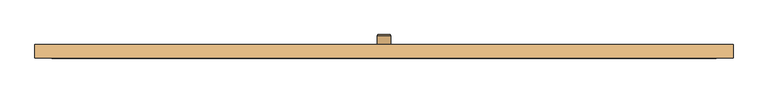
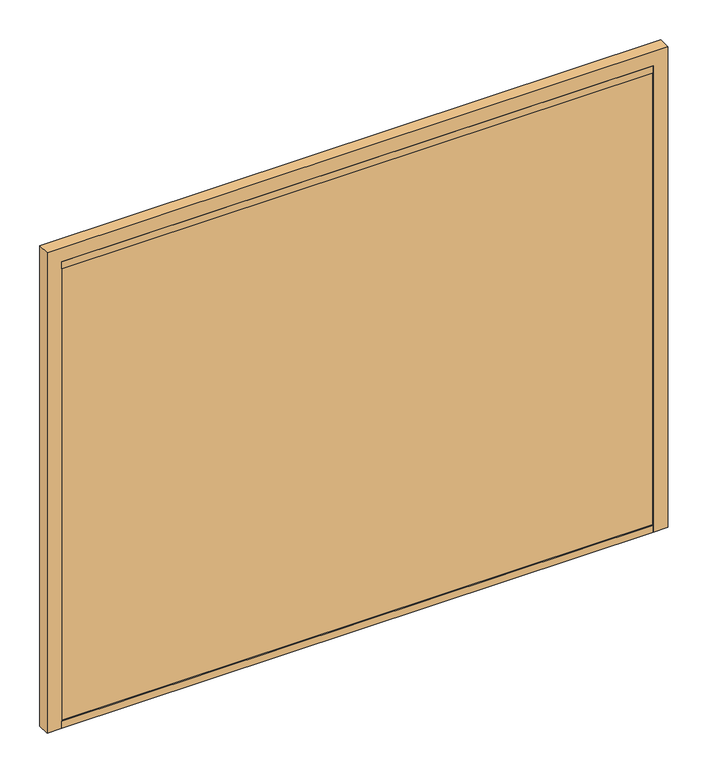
"""IFC4 building model written with IfcOpenShell, lengths in millimetres: door geometry, Garage basculante : Garage basculante."""

from ifc_helpers import new_model, si_unit, frame, origin, place, context, project, spatial, polyline, circle_curve, outline, extrude, faceted_brep, source, transform, mapped, element, save
from ifc_brep_helpers import plane_surface, cylinder_surface, revolved_surface, advanced_brep


def door_f3a96b27(model_context):
    return source(origin(), model_context, "Body", "SolidModel", [
        faceted_brep([(-1215.0, -503.5523258, 2000.0), (1185.0, -503.5523258, 2000.0), (1185.0, -453.5523258, 2000.0), (-1215.0, -453.5523258, 2000.0), (1185.0, -503.5523258, 0.0), (-1215.0, -503.5523258, 0.0), (-1215.0, -453.5523258, 0.0), (1185.0, -453.5523258, 0.0), (1117.5806452, -468.5523258, 1970.0), (1117.5806452, -468.5523258, 30.0), (1097.5806452, -468.5523258, 30.0), (1097.5806452, -468.5523258, 1970.0), (1097.5806452, -458.5523258, 30.0), (1097.5806452, -458.5523258, 1970.0), (1040.1612903, -458.5523258, 30.0), (1040.1612903, -458.5523258, 1970.0), (1040.1612903, -468.5523258, 30.0), (1040.1612903, -468.5523258, 1970.0), (1020.1612903, -468.5523258, 30.0), (1020.1612903, -468.5523258, 1970.0), (1020.1612903, -458.5523258, 30.0), (1020.1612903, -458.5523258, 1970.0), (962.7419355, -458.5523258, 30.0), (962.7419355, -458.5523258, 1970.0), (962.7419355, -468.5523258, 30.0), (962.7419355, -468.5523258, 1970.0), (942.7419355, -468.5523258, 30.0), (942.7419355, -468.5523258, 1970.0), (942.7419355, -458.5523258, 30.0), (942.7419355, -458.5523258, 1970.0), (885.3225806, -458.5523258, 30.0), (885.3225806, -458.5523258, 1970.0), (885.3225806, -468.5523258, 30.0), (885.3225806, -468.5523258, 1970.0), (865.3225806, -468.5523258, 30.0), (865.3225806, -468.5523258, 1970.0), (865.3225806, -458.5523258, 30.0), (865.3225806, -458.5523258, 1970.0), (807.9032258, -458.5523258, 30.0), (807.9032258, -458.5523258, 1970.0), (807.9032258, -468.5523258, 30.0), (807.9032258, -468.5523258, 1970.0), (787.9032258, -468.5523258, 30.0), (787.9032258, -468.5523258, 1970.0), (787.9032258, -458.5523258, 30.0), (787.9032258, -458.5523258, 1970.0), (730.483871, -458.5523258, 30.0), (730.483871, -458.5523258, 1970.0), (730.483871, -468.5523258, 30.0), (730.483871, -468.5523258, 1970.0), (710.483871, -468.5523258, 30.0), (710.483871, -468.5523258, 1970.0), (710.483871, -458.5523258, 30.0), (710.483871, -458.5523258, 1970.0), (653.0645161, -458.5523258, 30.0), (653.0645161, -458.5523258, 1970.0), (653.0645161, -468.5523258, 30.0), (653.0645161, -468.5523258, 1970.0), (633.0645161, -468.5523258, 30.0), (633.0645161, -468.5523258, 1970.0), (633.0645161, -458.5523258, 30.0), (633.0645161, -458.5523258, 1970.0), (575.6451613, -458.5523258, 30.0), (575.6451613, -458.5523258, 1970.0), (575.6451613, -468.5523258, 30.0), (575.6451613, -468.5523258, 1970.0), (555.6451613, -468.5523258, 30.0), (555.6451613, -468.5523258, 1970.0), (555.6451613, -458.5523258, 30.0), (555.6451613, -458.5523258, 1970.0), (498.2258065, -458.5523258, 30.0), (498.2258065, -458.5523258, 1970.0), (498.2258065, -468.5523258, 30.0), (498.2258065, -468.5523258, 1970.0), (478.2258065, -468.5523258, 30.0), (478.2258065, -468.5523258, 1970.0), (478.2258065, -458.5523258, 30.0), (478.2258065, -458.5523258, 1970.0), (420.8064516, -458.5523258, 30.0), (420.8064516, -458.5523258, 1970.0), (420.8064516, -468.5523258, 30.0), (420.8064516, -468.5523258, 1970.0), (400.8064516, -468.5523258, 30.0), (400.8064516, -468.5523258, 1970.0), (400.8064516, -458.5523258, 30.0), (400.8064516, -458.5523258, 1970.0), (343.3870968, -458.5523258, 30.0), (343.3870968, -458.5523258, 1970.0), (343.3870968, -468.5523258, 30.0), (343.3870968, -468.5523258, 1970.0), (323.3870968, -468.5523258, 30.0), (323.3870968, -468.5523258, 1970.0), (323.3870968, -458.5523258, 30.0), (323.3870968, -458.5523258, 1970.0), (265.9677419, -458.5523258, 30.0), (265.9677419, -458.5523258, 1970.0), (265.9677419, -468.5523258, 30.0), (265.9677419, -468.5523258, 1970.0), (245.9677419, -468.5523258, 30.0), (245.9677419, -468.5523258, 1970.0), (245.9677419, -458.5523258, 30.0), (245.9677419, -458.5523258, 1970.0), (188.5483871, -458.5523258, 30.0), (188.5483871, -458.5523258, 1970.0), (188.5483871, -468.5523258, 30.0), (188.5483871, -468.5523258, 1970.0), (168.5483871, -468.5523258, 30.0), (168.5483871, -468.5523258, 1970.0), (168.5483871, -458.5523258, 30.0), (168.5483871, -458.5523258, 1970.0), (111.1290323, -458.5523258, 30.0), (111.1290323, -458.5523258, 1970.0), (111.1290323, -468.5523258, 30.0), (111.1290323, -468.5523258, 1970.0), (91.1290323, -468.5523258, 30.0), (91.1290323, -468.5523258, 1970.0), (91.1290323, -458.5523258, 30.0), (91.1290323, -458.5523258, 1970.0), (33.7096774, -458.5523258, 30.0), (33.7096774, -458.5523258, 1970.0), (33.7096774, -468.5523258, 30.0), (33.7096774, -468.5523258, 1970.0), (13.7096774, -468.5523258, 30.0), (13.7096774, -468.5523258, 1970.0), (13.7096774, -458.5523258, 30.0), (13.7096774, -458.5523258, 1970.0), (-43.7096774, -458.5523258, 30.0), (-43.7096774, -458.5523258, 1970.0), (-43.7096774, -468.5523258, 30.0), (-43.7096774, -468.5523258, 1970.0), (-63.7096774, -468.5523258, 30.0), (-63.7096774, -468.5523258, 1970.0), (-63.7096774, -458.5523258, 30.0), (-63.7096774, -458.5523258, 1970.0), (-121.1290323, -458.5523258, 30.0), (-121.1290323, -458.5523258, 1970.0), (-121.1290323, -468.5523258, 30.0), (-121.1290323, -468.5523258, 1970.0), (-141.1290323, -468.5523258, 30.0), (-141.1290323, -468.5523258, 1970.0), (-141.1290323, -458.5523258, 30.0), (-141.1290323, -458.5523258, 1970.0), (-198.5483871, -458.5523258, 30.0), (-198.5483871, -458.5523258, 1970.0), (-198.5483871, -468.5523258, 30.0), (-198.5483871, -468.5523258, 1970.0), (-218.5483871, -468.5523258, 30.0), (-218.5483871, -468.5523258, 1970.0), (-218.5483871, -458.5523258, 30.0), (-218.5483871, -458.5523258, 1970.0), (-275.9677419, -458.5523258, 30.0), (-275.9677419, -458.5523258, 1970.0), (-275.9677419, -468.5523258, 30.0), (-275.9677419, -468.5523258, 1970.0), (-295.9677419, -468.5523258, 30.0), (-295.9677419, -468.5523258, 1970.0), (-295.9677419, -458.5523258, 30.0), (-295.9677419, -458.5523258, 1970.0), (-353.3870968, -458.5523258, 30.0), (-353.3870968, -458.5523258, 1970.0), (-353.3870968, -468.5523258, 30.0), (-353.3870968, -468.5523258, 1970.0), (-373.3870968, -468.5523258, 30.0), (-373.3870968, -468.5523258, 1970.0), (-373.3870968, -458.5523258, 30.0), (-373.3870968, -458.5523258, 1970.0), (-430.8064516, -458.5523258, 30.0), (-430.8064516, -458.5523258, 1970.0), (-430.8064516, -468.5523258, 30.0), (-430.8064516, -468.5523258, 1970.0), (-450.8064516, -468.5523258, 30.0), (-450.8064516, -468.5523258, 1970.0), (-450.8064516, -458.5523258, 30.0), (-450.8064516, -458.5523258, 1970.0), (-508.2258065, -458.5523258, 30.0), (-508.2258065, -458.5523258, 1970.0), (-508.2258065, -468.5523258, 30.0), (-508.2258065, -468.5523258, 1970.0), (-528.2258065, -468.5523258, 30.0), (-528.2258065, -468.5523258, 1970.0), (-528.2258065, -458.5523258, 30.0), (-528.2258065, -458.5523258, 1970.0), (-585.6451613, -458.5523258, 30.0), (-585.6451613, -458.5523258, 1970.0), (-585.6451613, -468.5523258, 30.0), (-585.6451613, -468.5523258, 1970.0), (-605.6451613, -468.5523258, 30.0), (-605.6451613, -468.5523258, 1970.0), (-605.6451613, -458.5523258, 30.0), (-605.6451613, -458.5523258, 1970.0), (-663.0645161, -458.5523258, 30.0), (-663.0645161, -458.5523258, 1970.0), (-663.0645161, -468.5523258, 30.0), (-663.0645161, -468.5523258, 1970.0), (-683.0645161, -468.5523258, 30.0), (-683.0645161, -468.5523258, 1970.0), (-683.0645161, -458.5523258, 30.0), (-683.0645161, -458.5523258, 1970.0), (-740.483871, -458.5523258, 30.0), (-740.483871, -458.5523258, 1970.0), (-740.483871, -468.5523258, 30.0), (-740.483871, -468.5523258, 1970.0), (-760.483871, -468.5523258, 30.0), (-760.483871, -468.5523258, 1970.0), (-760.483871, -458.5523258, 30.0), (-760.483871, -458.5523258, 1970.0), (-817.9032258, -458.5523258, 30.0), (-817.9032258, -458.5523258, 1970.0), (-817.9032258, -468.5523258, 30.0), (-817.9032258, -468.5523258, 1970.0), (-837.9032258, -468.5523258, 30.0), (-837.9032258, -468.5523258, 1970.0), (-837.9032258, -458.5523258, 30.0), (-837.9032258, -458.5523258, 1970.0), (-895.3225806, -458.5523258, 30.0), (-895.3225806, -458.5523258, 1970.0), (-895.3225806, -468.5523258, 30.0), (-895.3225806, -468.5523258, 1970.0), (-915.3225806, -468.5523258, 30.0), (-915.3225806, -468.5523258, 1970.0), (-915.3225806, -458.5523258, 30.0), (-915.3225806, -458.5523258, 1970.0), (-972.7419355, -458.5523258, 30.0), (-972.7419355, -458.5523258, 1970.0), (-972.7419355, -468.5523258, 30.0), (-972.7419355, -468.5523258, 1970.0), (-992.7419355, -468.5523258, 30.0), (-992.7419355, -468.5523258, 1970.0), (-992.7419355, -458.5523258, 30.0), (-992.7419355, -458.5523258, 1970.0), (-1050.1612903, -458.5523258, 30.0), (-1050.1612903, -458.5523258, 1970.0), (-1050.1612903, -468.5523258, 30.0), (-1050.1612903, -468.5523258, 1970.0), (-1070.1612903, -468.5523258, 30.0), (-1070.1612903, -468.5523258, 1970.0), (-1070.1612903, -458.5523258, 30.0), (-1070.1612903, -458.5523258, 1970.0), (-1127.5806452, -458.5523258, 30.0), (-1127.5806452, -458.5523258, 1970.0), (-1127.5806452, -468.5523258, 30.0), (-1127.5806452, -468.5523258, 1970.0), (-1147.5806452, -468.5523258, 30.0), (-1147.5806452, -468.5523258, 1970.0), (-1147.5806452, -458.5523258, 30.0), (-1147.5806452, -458.5523258, 1970.0), (-1215.0, -458.5523258, 30.0), (-1215.0, -458.5523258, 1970.0), (-1215.0, -453.5523258, 1970.0), (-1215.0, -453.5523258, 30.0), (-1215.0, -503.5523258, 30.0), (-1215.0, -498.5523258, 30.0), (-1215.0, -498.5523258, 1970.0), (-1215.0, -503.5523258, 1970.0), (1185.0, -498.5523258, 30.0), (1185.0, -498.5523258, 1970.0), (1185.0, -503.5523258, 1970.0), (1185.0, -503.5523258, 30.0), (1185.0, -453.5523258, 30.0), (1185.0, -458.5523258, 30.0), (1185.0, -458.5523258, 1970.0), (1185.0, -453.5523258, 1970.0), (1117.5806452, -458.5523258, 30.0), (1117.5806452, -458.5523258, 1970.0)], [[[0, 1, 2, 3]], [[4, 5, 6, 7]], [[8, 9, 10, 11]], [[11, 10, 12, 13]], [[13, 12, 14, 15]], [[15, 14, 16, 17]], [[17, 16, 18, 19]], [[19, 18, 20, 21]], [[21, 20, 22, 23]], [[23, 22, 24, 25]], [[25, 24, 26, 27]], [[27, 26, 28, 29]], [[29, 28, 30, 31]], [[31, 30, 32, 33]], [[33, 32, 34, 35]], [[35, 34, 36, 37]], [[37, 36, 38, 39]], [[39, 38, 40, 41]], [[41, 40, 42, 43]], [[43, 42, 44, 45]], [[45, 44, 46, 47]], [[47, 46, 48, 49]], [[49, 48, 50, 51]], [[51, 50, 52, 53]], [[53, 52, 54, 55]], [[55, 54, 56, 57]], [[57, 56, 58, 59]], [[59, 58, 60, 61]], [[61, 60, 62, 63]], [[63, 62, 64, 65]], [[65, 64, 66, 67]], [[67, 66, 68, 69]], [[69, 68, 70, 71]], [[71, 70, 72, 73]], [[73, 72, 74, 75]], [[75, 74, 76, 77]], [[77, 76, 78, 79]], [[79, 78, 80, 81]], [[81, 80, 82, 83]], [[83, 82, 84, 85]], [[85, 84, 86, 87]], [[87, 86, 88, 89]], [[89, 88, 90, 91]], [[91, 90, 92, 93]], [[93, 92, 94, 95]], [[95, 94, 96, 97]], [[97, 96, 98, 99]], [[99, 98, 100, 101]], [[101, 100, 102, 103]], [[103, 102, 104, 105]], [[105, 104, 106, 107]], [[107, 106, 108, 109]], [[109, 108, 110, 111]], [[111, 110, 112, 113]], [[113, 112, 114, 115]], [[115, 114, 116, 117]], [[117, 116, 118, 119]], [[119, 118, 120, 121]], [[121, 120, 122, 123]], [[123, 122, 124, 125]], [[125, 124, 126, 127]], [[127, 126, 128, 129]], [[129, 128, 130, 131]], [[131, 130, 132, 133]], [[133, 132, 134, 135]], [[135, 134, 136, 137]], [[137, 136, 138, 139]], [[139, 138, 140, 141]], [[141, 140, 142, 143]], [[143, 142, 144, 145]], [[145, 144, 146, 147]], [[147, 146, 148, 149]], [[149, 148, 150, 151]], [[151, 150, 152, 153]], [[153, 152, 154, 155]], [[155, 154, 156, 157]], [[157, 156, 158, 159]], [[159, 158, 160, 161]], [[161, 160, 162, 163]], [[163, 162, 164, 165]], [[165, 164, 166, 167]], [[167, 166, 168, 169]], [[169, 168, 170, 171]], [[171, 170, 172, 173]], [[173, 172, 174, 175]], [[175, 174, 176, 177]], [[177, 176, 178, 179]], [[179, 178, 180, 181]], [[181, 180, 182, 183]], [[183, 182, 184, 185]], [[185, 184, 186, 187]], [[187, 186, 188, 189]], [[189, 188, 190, 191]], [[191, 190, 192, 193]], [[193, 192, 194, 195]], [[195, 194, 196, 197]], [[197, 196, 198, 199]], [[199, 198, 200, 201]], [[201, 200, 202, 203]], [[203, 202, 204, 205]], [[205, 204, 206, 207]], [[207, 206, 208, 209]], [[209, 208, 210, 211]], [[211, 210, 212, 213]], [[213, 212, 214, 215]], [[215, 214, 216, 217]], [[217, 216, 218, 219]], [[219, 218, 220, 221]], [[221, 220, 222, 223]], [[223, 222, 224, 225]], [[225, 224, 226, 227]], [[227, 226, 228, 229]], [[229, 228, 230, 231]], [[231, 230, 232, 233]], [[233, 232, 234, 235]], [[235, 234, 236, 237]], [[237, 236, 238, 239]], [[239, 238, 240, 241]], [[241, 240, 242, 243]], [[243, 242, 244, 245]], [[245, 244, 246, 247]], [[0, 3, 248, 247, 246, 249, 6, 5, 250, 251, 252, 253]], [[252, 251, 254, 255]], [[2, 1, 256, 255, 254, 257, 4, 7, 258, 259, 260, 261]], [[260, 259, 262, 263]], [[9, 8, 263, 262]], [[256, 253, 252, 255]], [[248, 261, 260, 263, 8, 11, 13, 15, 17, 19, 21, 23, 25, 27, 29, 31, 33, 35, 37, 39, 41, 43, 45, 47, 49, 51, 53, 55, 57, 59, 61, 63, 65, 67, 69, 71, 73, 75, 77, 79, 81, 83, 85, 87, 89, 91, 93, 95, 97, 99, 101, 103, 105, 107, 109, 111, 113, 115, 117, 119, 121, 123, 125, 127, 129, 131, 133, 135, 137, 139, 141, 143, 145, 147, 149, 151, 153, 155, 157, 159, 161, 163, 165, 167, 169, 171, 173, 175, 177, 179, 181, 183, 185, 187, 189, 191, 193, 195, 197, 199, 201, 203, 205, 207, 209, 211, 213, 215, 217, 219, 221, 223, 225, 227, 229, 231, 233, 235, 237, 239, 241, 243, 245, 247]], [[2, 261, 248, 3]], [[256, 1, 0, 253]], [[4, 257, 250, 5]], [[258, 7, 6, 249]], [[250, 257, 254, 251]], [[258, 249, 246, 244, 242, 240, 238, 236, 234, 232, 230, 228, 226, 224, 222, 220, 218, 216, 214, 212, 210, 208, 206, 204, 202, 200, 198, 196, 194, 192, 190, 188, 186, 184, 182, 180, 178, 176, 174, 172, 170, 168, 166, 164, 162, 160, 158, 156, 154, 152, 150, 148, 146, 144, 142, 140, 138, 136, 134, 132, 130, 128, 126, 124, 122, 120, 118, 116, 114, 112, 110, 108, 106, 104, 102, 100, 98, 96, 94, 92, 90, 88, 86, 84, 82, 80, 78, 76, 74, 72, 70, 68, 66, 64, 62, 60, 58, 56, 54, 52, 50, 48, 46, 44, 42, 40, 38, 36, 34, 32, 30, 28, 26, 24, 22, 20, 18, 16, 14, 12, 10, 9, 262, 259]]]),
        advanced_brep(
        [(-37.902088, -418.5523258, 500.0), (7.902088, -418.5523258, 500.0), (10.0, -420.6502378, 500.0), (-40.0, -420.6502378, 500.0), (-15.0, -418.5523258, 500.0), (-40.0, -458.5523258, 500.0), (10.0, -458.5523258, 500.0), (-15.0, -458.5523258, 500.0)],
        [
            (0, 1, circle_curve(frame((-15.0, -418.5523258, 500.0), z_axis=(0.0, -1.0, 0.0), x_axis=(1.0, 0.0, 0.0)), 22.902088)),
            (1, 2),
            (2, 3, circle_curve(frame((-15.0, -420.6502378, 500.0), z_axis=(0.0, 1.0, 0.0), x_axis=(1.0, 0.0, 0.0)), 25.0)),
            (3, 0),
            (1, 0, circle_curve(frame((-15.0, -418.5523258, 500.0), z_axis=(0.0, -1.0, 0.0), x_axis=(1.0, 0.0, 0.0)), 22.902088)),
            (3, 2, circle_curve(frame((-15.0, -420.6502378, 500.0), z_axis=(0.0, 1.0, 0.0), x_axis=(1.0, 0.0, 0.0)), 25.0)),
            (4, 1),
            (0, 4),
            (5, 6, circle_curve(frame((-15.0, -458.5523258, 500.0), z_axis=(0.0, -1.0, 0.0), x_axis=(1.0, 0.0, 0.0)), 25.0)),
            (6, 7),
            (7, 5),
            (6, 5, circle_curve(frame((-15.0, -458.5523258, 500.0), z_axis=(0.0, -1.0, 0.0), x_axis=(1.0, 0.0, 0.0)), 25.0)),
            (2, 6),
            (5, 3),
        ],
        [
            revolved_surface(polyline([(10.0, -420.6502378, 500.0), (7.902088, -418.5523258, 500.0)]), (-15.0, 936.1651436, 500.0), (0.0, 1.0, 0.0)),
            plane_surface(frame((-15.0, -418.5523258, 500.0), z_axis=(0.0, 1.0, 0.0), x_axis=(1.0, 0.0, 0.0))),
            plane_surface(frame((-15.0, -458.5523258, 500.0), z_axis=(0.0, -1.0, 0.0), x_axis=(1.0, 0.0, 0.0))),
            cylinder_surface(frame((-15.0, 936.1651436, 500.0), z_axis=(0.0, 1.0, 0.0), x_axis=(1.0, 0.0, 0.0)), 25.0),
        ],
        [
            (0, [[1, 2, 3, 4]]),
            (0, [[5, -4, 6, -2]]),
            (1, [[7, -1, 8]]),
            (1, [[-8, -5, -7]]),
            (2, [[9, 10, 11]]),
            (2, [[12, -11, -10]]),
            (3, [[-3, 13, -9, 14]]),
            (3, [[-6, -14, -12, -13]]),
        ],
    ),
        extrude(outline(polyline([(0.0, -1275.0), (0.0, -1215.0), (2000.0, -1215.0), (2000.0, 1185.0), (0.0, 1185.0), (0.0, 1245.0), (2060.0, 1245.0), (2060.0, -1275.0), (0.0, -1275.0)])), frame((0.0, -503.5523258, 0.0), z_axis=(0.0, 1.0, 0.0), x_axis=(0.0, 0.0, 1.0)), (0.0, 0.0, 1.0), 50.0),
    ])


if __name__ == "__main__":
    model = new_model("IFC4")
    model_context = context("Model", 3, world=origin())
    ifc_project = project(units=[si_unit("LENGTHUNIT", "METRE", prefix="MILLI")], contexts=[model_context])
    site = spatial("IfcSite", under=ifc_project)
    building = spatial("IfcBuilding", under=site)
    placement = place(None, origin())
    door_shape = door_f3a96b27(model_context)
    element("IfcDoor", 1, ObjectType="Garage basculante : Garage basculante", at=placement, inside=building, context=model_context, shape_type="MappedRepresentation", body=[
        mapped(door_shape, transform((0.0, 0.0, 0.0), x_axis=(1.0, 0.0, 0.0), y_axis=(0.0, 1.0, 0.0), z_axis=(0.0, 0.0, 1.0))),
    ])
    save(model, "model.ifc")
